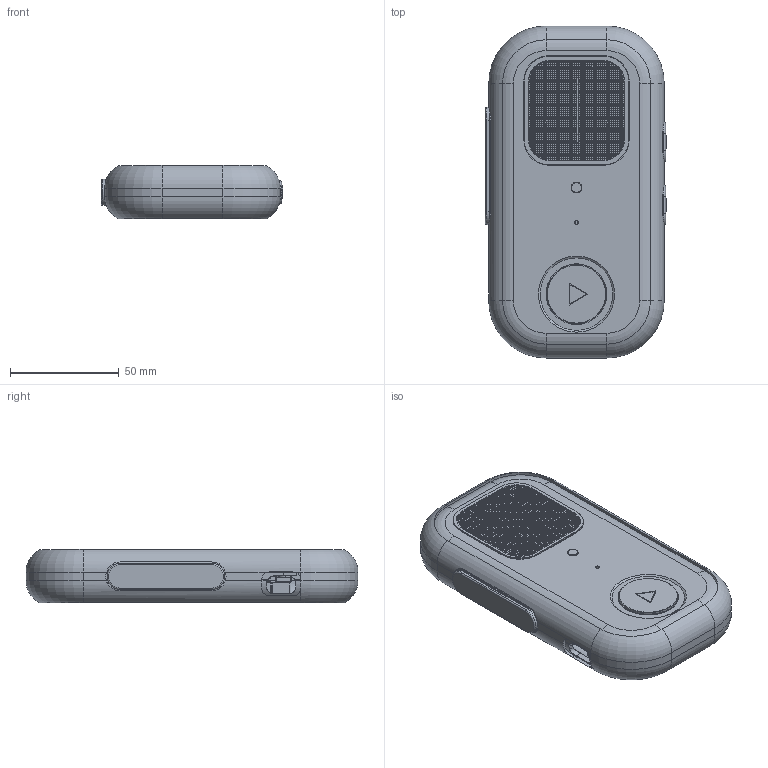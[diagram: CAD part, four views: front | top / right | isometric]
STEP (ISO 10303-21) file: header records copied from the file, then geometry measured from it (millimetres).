
FILE_DESCRIPTION(/* description */ (''),/* implementation_level */ '2;1');
FILE_NAME(/* name */ 'Walkie_One_28_R1_CASE.step',/* time_stamp */ '2026-09-10T13:08:47-07:00',/* author */ (''),/* organization */ (''),/* preprocessor_version */ 'ST-DEVELOPER v20.1',/* originating_system */ 'Autodesk Translation Framework v15.8.0.0',/* authorisation */ '');
FILE_SCHEMA (('AUTOMOTIVE_DESIGN { 1 0 10303 214 3 1 1 }'));
Products named in the file (92): 2026-09-10-13-08-40-057; 2026-09-10-13-08-40-321; 2026-09-10-13-08-40-945; 2026-09-10-13-08-41-867; 2026-09-10-13-08-41-923; 2026-09-10-13-08-41-967; 2026-09-10-13-08-42-041; 2026-09-10-13-08-42-119; 2026-09-10-13-08-42-189; 2026-09-10-13-08-42-256; 2026-09-10-13-08-42-395; 2026-09-10-13-08-42-433; 2026-09-10-13-08-42-471; 2026-09-10-13-08-42-521; 2026-09-10-13-08-42-559; 2026-09-10-13-08-42-603; 2026-09-10-13-08-42-640; 2026-09-10-13-08-42-687; 2026-09-10-13-08-42-729; 2026-09-10-13-08-42-765; 2026-09-10-13-08-42-800; 2026-09-10-13-08-42-841; 2026-09-10-13-08-42-881; 2026-09-10-13-08-42-919; 2026-09-10-13-08-42-957; 2026-09-10-13-08-42-995; 2026-09-10-13-08-43-038; 2026-09-10-13-08-43-088; 2026-09-10-13-08-43-146; 2026-09-10-13-08-43-194; 2026-09-10-13-08-43-236; 2026-09-10-13-08-43-278; 2026-09-10-13-08-43-320; 2026-09-10-13-08-43-356; 2026-09-10-13-08-43-392; 2026-09-10-13-08-43-433; 2026-09-10-13-08-43-470; 2026-09-10-13-08-43-508; 2026-09-10-13-08-43-546; 2026-09-10-13-08-43-582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
Assembly tree (91 placements, depth 2):
  2026-09-10-13-08-40-057
    2026-09-10-13-08-40-321
    2026-09-10-13-08-40-945
    2026-09-10-13-08-41-867
    2026-09-10-13-08-41-923
    2026-09-10-13-08-41-967
    2026-09-10-13-08-42-041
    2026-09-10-13-08-42-119
    2026-09-10-13-08-42-189
    2026-09-10-13-08-42-256
    2026-09-10-13-08-42-395
    2026-09-10-13-08-42-433
    2026-09-10-13-08-42-471
    2026-09-10-13-08-42-521
    2026-09-10-13-08-42-559
    2026-09-10-13-08-42-603
    2026-09-10-13-08-42-640
    2026-09-10-13-08-42-687
    2026-09-10-13-08-42-729
    2026-09-10-13-08-42-765
    2026-09-10-13-08-42-800
    2026-09-10-13-08-42-841
    2026-09-10-13-08-42-881
    2026-09-10-13-08-42-919
    2026-09-10-13-08-42-957
    2026-09-10-13-08-42-995
    2026-09-10-13-08-43-038
    2026-09-10-13-08-43-088
    2026-09-10-13-08-43-146
    2026-09-10-13-08-43-194
    2026-09-10-13-08-43-236
    2026-09-10-13-08-43-278
    2026-09-10-13-08-43-320
    2026-09-10-13-08-43-356
    2026-09-10-13-08-43-392
    2026-09-10-13-08-43-433
    2026-09-10-13-08-43-470
    2026-09-10-13-08-43-508
    2026-09-10-13-08-43-546
    2026-09-10-13-08-43-582
    2026-09-10-13-08-43-628
    2026-09-10-13-08-43-669
    2026-09-10-13-08-43-709
    2026-09-10-13-08-43-746
    2026-09-10-13-08-43-794
    2026-09-10-13-08-43-839
    2026-09-10-13-08-43-882
    2026-09-10-13-08-43-920
    2026-09-10-13-08-43-967
    2026-09-10-13-08-44-010
    2026-09-10-13-08-44-049
    2026-09-10-13-08-44-085
    2026-09-10-13-08-44-138
    2026-09-10-13-08-44-173
    2026-09-10-13-08-44-209
    2026-09-10-13-08-44-257
    2026-09-10-13-08-44-291
    2026-09-10-13-08-44-341
    2026-09-10-13-08-44-395
    2026-09-10-13-08-44-434
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Bounding box: 83.35 x 152.7 x 24.74 mm (x, y, z)
Volume: 87137.8 mm3; surface area: 132144.2 mm2
Topology: 182 solids, 182 shells, 3946 faces, 10210 edges, 6742 vertices
Faces by surface type: plane 1948, cylinder 1234, bspline 636, torus 80, cone 47, sphere 1
Full cylindrical faces by diameter (mm): 0.18 x92, 1.5 x5, 1.567 x14, 1.7 x22, 1.8 x1, 2.013 x4, 2.1 x4, 2.2 x2, 2.3 x12, 2.6 x6, 2.8 x4, 2.9 x4, 3 x4, 4.2 x6, 4.7 x1, 4.9 x1, 5 x1, 5.3 x1, 5.4 x1, 5.5 x1, 26.8 x1, 27 x1, 27.3 x1, 27.9 x1, 35 x1, 38 x2, 39.6 x3
Entity records: 136137 total; most frequent: CARTESIAN_POINT 37965, ORIENTED_EDGE 20418, DIRECTION 18881, EDGE_CURVE 10209, VERTEX_POINT 6742, AXIS2_PLACEMENT_3D 6350, LINE 6181, VECTOR 6181
